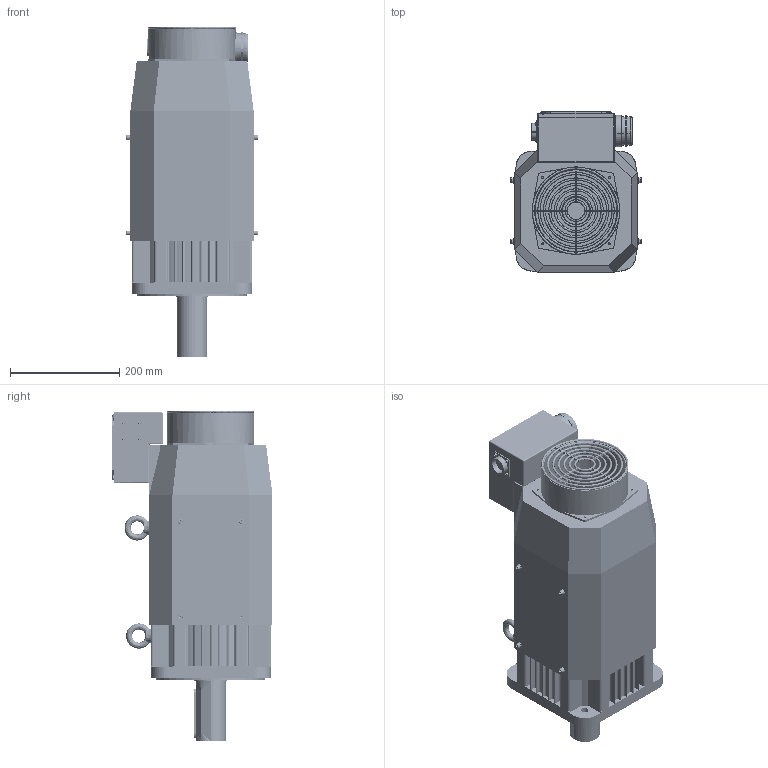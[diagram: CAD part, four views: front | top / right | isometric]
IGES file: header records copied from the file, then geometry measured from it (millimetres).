
Start section: SolidWorks IGES file using analytic representation for surfaces
Global section: file name: E:\00-工作任务\16-外形图\EMB\模型图\EMB-1ED\简易模型EMB-1ED\EMB-1ED.IGS,15HSolidWorks; native system: 2018; preprocessor: SolidWorks 2018; author: shenjianhong; date: 200417.174231; units: millimetre
Bounding box: 240.6 x 295 x 606 mm (x, y, z)
Surface area: 1666571.7 mm2 (no closed solid volume)
Topology: 0 solids, 0 shells, 1869 faces, 27195 edges, 27091 vertices
Faces by surface type: bspline 979, revolution 890
